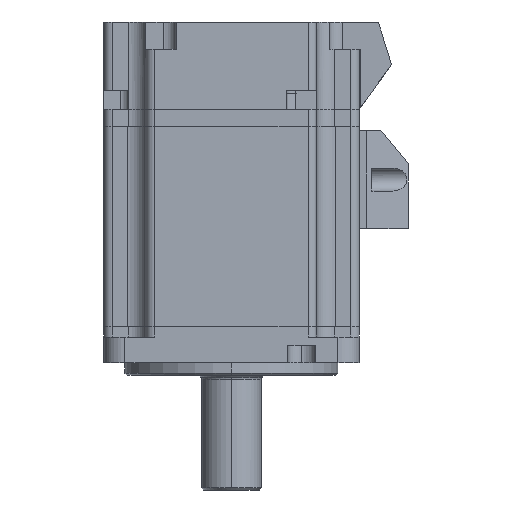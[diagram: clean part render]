
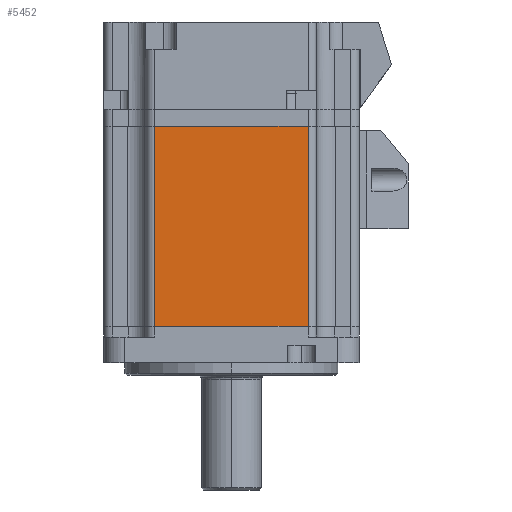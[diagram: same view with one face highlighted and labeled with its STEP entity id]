
A CAD part, left-side view. The second image highlights one B-rep face of the part: STEP entity #5452.
In plain terms, the highlighted planar face has unit normal (-1, 0, 0).
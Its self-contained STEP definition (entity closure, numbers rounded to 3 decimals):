
#1946 = EDGE_LOOP ( 'NONE', ( #7081, #4498, #4754, #13754 ) ) ;
#2506 = VECTOR ( 'NONE', #4753, 1000. ) ;
#2510 = EDGE_CURVE ( 'NONE', #9595, #18313, #14780, .T. ) ;
#2652 = CARTESIAN_POINT ( 'NONE',  ( -30., -18., 23.5 ) ) ;
#3097 = VERTEX_POINT ( 'NONE', #18652 ) ;
#4498 = ORIENTED_EDGE ( 'NONE', *, *, #8674, .T. ) ;
#4604 = FACE_OUTER_BOUND ( 'NONE', #1946, .T. ) ;
#4728 = EDGE_CURVE ( 'NONE', #5994, #3097, #15027, .T. ) ;
#4753 = DIRECTION ( 'NONE',  ( 0., 0., -1. ) ) ;
#4754 = ORIENTED_EDGE ( 'NONE', *, *, #2510, .T. ) ;
#5372 = CARTESIAN_POINT ( 'NONE',  ( -30., 18., 23.5 ) ) ;
#5452 = ADVANCED_FACE ( 'NONE', ( #4604 ), #6131, .T. ) ;
#5994 = VERTEX_POINT ( 'NONE', #8634 ) ;
#6131 = PLANE ( 'NONE',  #18743 ) ;
#7081 = ORIENTED_EDGE ( 'NONE', *, *, #4728, .F. ) ;
#8634 = CARTESIAN_POINT ( 'NONE',  ( -30., -18., -23.5 ) ) ;
#8674 = EDGE_CURVE ( 'NONE', #5994, #9595, #13574, .T. ) ;
#9595 = VERTEX_POINT ( 'NONE', #15038 ) ;
#10886 = DIRECTION ( 'NONE',  ( 0., 1., 0. ) ) ;
#11266 = CARTESIAN_POINT ( 'NONE',  ( -30., 0., 23.5 ) ) ;
#11855 = EDGE_CURVE ( 'NONE', #18313, #3097, #12285, .T. ) ;
#12285 = LINE ( 'NONE', #20327, #2506 ) ;
#13018 = DIRECTION ( 'NONE',  ( 0., 1., 0. ) ) ;
#13574 = LINE ( 'NONE', #2652, #16688 ) ;
#13754 = ORIENTED_EDGE ( 'NONE', *, *, #11855, .T. ) ;
#14780 = LINE ( 'NONE', #11266, #19747 ) ;
#15027 = LINE ( 'NONE', #16273, #15736 ) ;
#15038 = CARTESIAN_POINT ( 'NONE',  ( -30., -18., 23.5 ) ) ;
#15736 = VECTOR ( 'NONE', #16580, 1000. ) ;
#16273 = CARTESIAN_POINT ( 'NONE',  ( -30., 0., -23.5 ) ) ;
#16580 = DIRECTION ( 'NONE',  ( 0., 1., 0. ) ) ;
#16688 = VECTOR ( 'NONE', #16881, 1000. ) ;
#16881 = DIRECTION ( 'NONE',  ( 0., 0., 1. ) ) ;
#18313 = VERTEX_POINT ( 'NONE', #5372 ) ;
#18652 = CARTESIAN_POINT ( 'NONE',  ( -30., 18., -23.5 ) ) ;
#18736 = CARTESIAN_POINT ( 'NONE',  ( -30., 0., 23.5 ) ) ;
#18743 = AXIS2_PLACEMENT_3D ( 'NONE', #18736, #19022, #10886 ) ;
#19022 = DIRECTION ( 'NONE',  ( -1., 0., 0. ) ) ;
#19747 = VECTOR ( 'NONE', #13018, 1000. ) ;
#20327 = CARTESIAN_POINT ( 'NONE',  ( -30., 18., -23.5 ) ) ;
